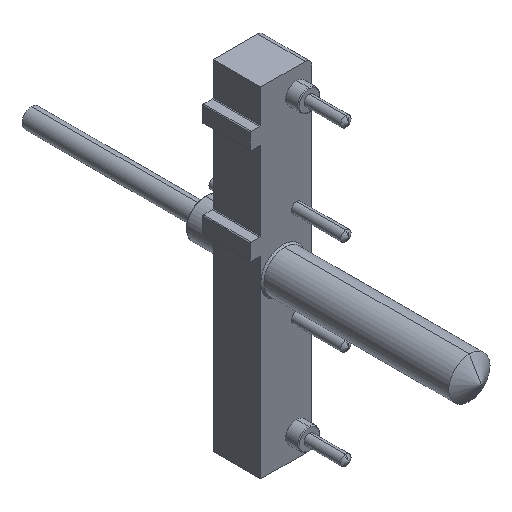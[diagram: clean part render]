
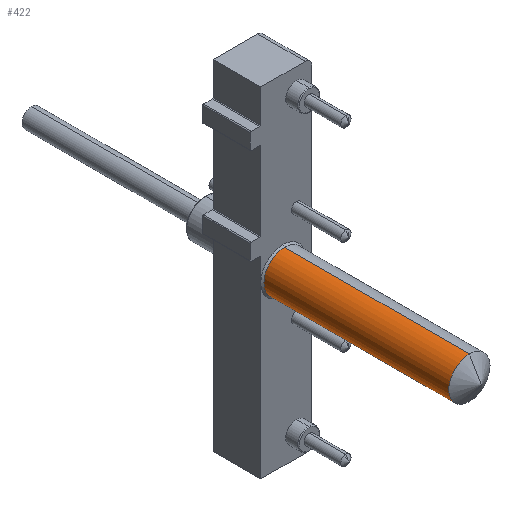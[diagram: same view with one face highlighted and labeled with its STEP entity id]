
A CAD part, isometric view. The second image highlights one B-rep face of the part: STEP entity #422.
In plain terms, the highlighted cylindrical face has radius 13 mm (diameter 26 mm), a partial arc.
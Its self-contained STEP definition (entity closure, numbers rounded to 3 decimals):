
#19 = LINE ( 'NONE', #1373, #406 ) ;
#39 = VERTEX_POINT ( 'NONE', #1476 ) ;
#128 = DIRECTION ( 'NONE',  ( 0., 0., -1. ) ) ;
#135 = CYLINDRICAL_SURFACE ( 'NONE', #1339, 13. ) ;
#323 = DIRECTION ( 'NONE',  ( 0., 1., 0. ) ) ;
#406 = VECTOR ( 'NONE', #1919, 1000. ) ;
#422 = ADVANCED_FACE ( 'NONE', ( #688 ), #135, .T. ) ;
#439 = CIRCLE ( 'NONE', #938, 13. ) ;
#581 = CARTESIAN_POINT ( 'NONE',  ( -4., -147.494, -13. ) ) ;
#688 = FACE_OUTER_BOUND ( 'NONE', #1386, .T. ) ;
#697 = CARTESIAN_POINT ( 'NONE',  ( -4., -31., -13. ) ) ;
#708 = CIRCLE ( 'NONE', #787, 13. ) ;
#777 = DIRECTION ( 'NONE',  ( 0., 0., 1. ) ) ;
#787 = AXIS2_PLACEMENT_3D ( 'NONE', #1256, #1672, #128 ) ;
#834 = ORIENTED_EDGE ( 'NONE', *, *, #1880, .F. ) ;
#842 = VERTEX_POINT ( 'NONE', #697 ) ;
#850 = EDGE_CURVE ( 'NONE', #39, #842, #439, .T. ) ;
#854 = CARTESIAN_POINT ( 'NONE',  ( -4., -31., 0. ) ) ;
#911 = CARTESIAN_POINT ( 'NONE',  ( -4., -155., 0. ) ) ;
#938 = AXIS2_PLACEMENT_3D ( 'NONE', #854, #1603, #2171 ) ;
#1126 = CARTESIAN_POINT ( 'NONE',  ( -4., -147.494, 13. ) ) ;
#1189 = EDGE_CURVE ( 'NONE', #2169, #1394, #708, .T. ) ;
#1251 = LINE ( 'NONE', #1802, #1375 ) ;
#1256 = CARTESIAN_POINT ( 'NONE',  ( -4., -147.494, 0. ) ) ;
#1330 = ORIENTED_EDGE ( 'NONE', *, *, #850, .T. ) ;
#1339 = AXIS2_PLACEMENT_3D ( 'NONE', #911, #323, #777 ) ;
#1373 = CARTESIAN_POINT ( 'NONE',  ( -4., -155., -13. ) ) ;
#1375 = VECTOR ( 'NONE', #1469, 1000. ) ;
#1386 = EDGE_LOOP ( 'NONE', ( #834, #1585, #2202, #1330 ) ) ;
#1394 = VERTEX_POINT ( 'NONE', #1126 ) ;
#1469 = DIRECTION ( 'NONE',  ( 0., 1., 0. ) ) ;
#1476 = CARTESIAN_POINT ( 'NONE',  ( -4., -31., 13. ) ) ;
#1585 = ORIENTED_EDGE ( 'NONE', *, *, #1189, .T. ) ;
#1603 = DIRECTION ( 'NONE',  ( 0., -1., 0. ) ) ;
#1672 = DIRECTION ( 'NONE',  ( 0., 1., 0. ) ) ;
#1802 = CARTESIAN_POINT ( 'NONE',  ( -4., -155., 13. ) ) ;
#1880 = EDGE_CURVE ( 'NONE', #2169, #842, #19, .T. ) ;
#1919 = DIRECTION ( 'NONE',  ( 0., 1., 0. ) ) ;
#2169 = VERTEX_POINT ( 'NONE', #581 ) ;
#2171 = DIRECTION ( 'NONE',  ( 0., 0., 1. ) ) ;
#2202 = ORIENTED_EDGE ( 'NONE', *, *, #2331, .T. ) ;
#2331 = EDGE_CURVE ( 'NONE', #1394, #39, #1251, .T. ) ;
